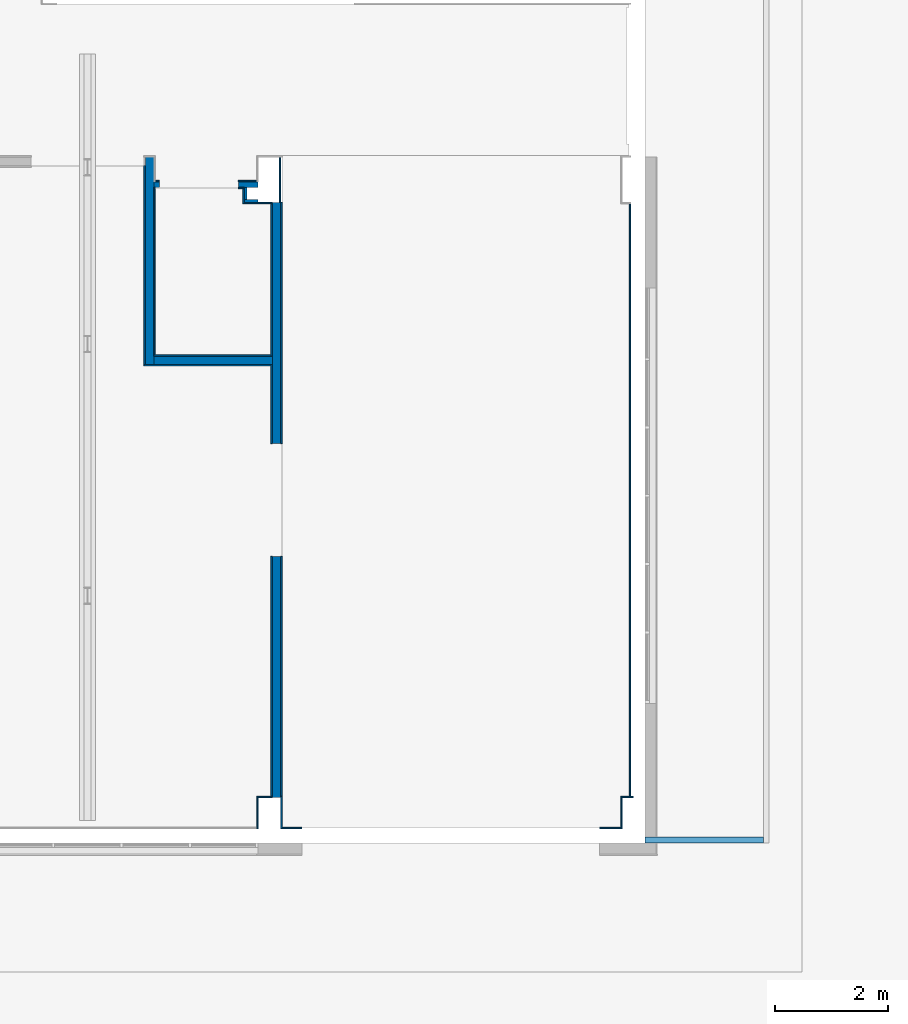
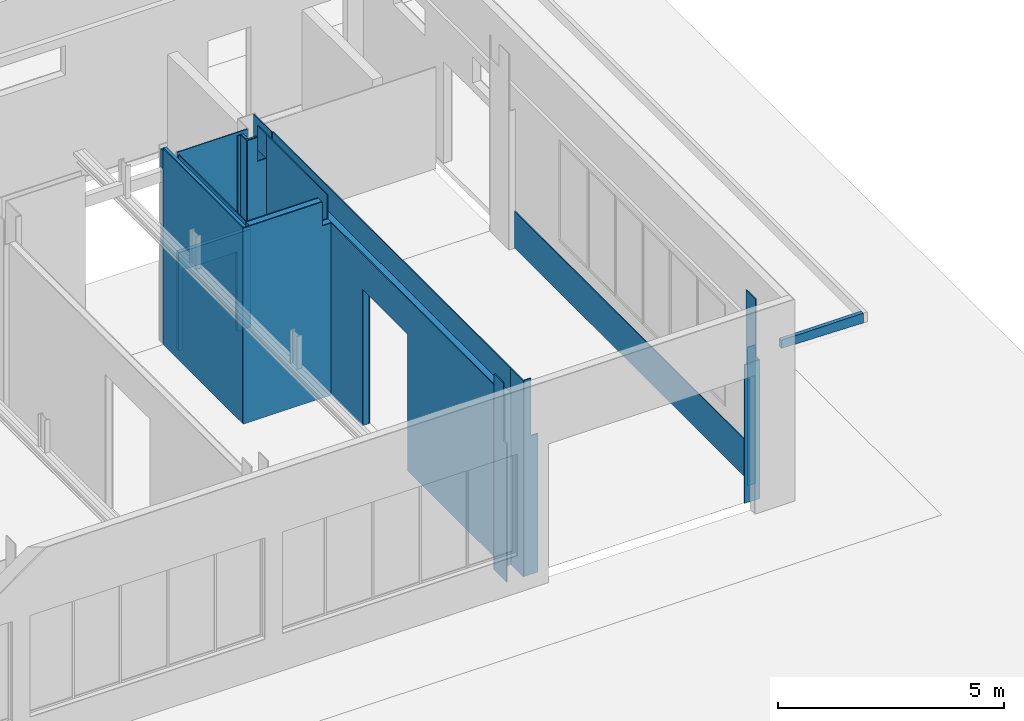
# One storey, part 16 of 27: 28 walls, 5 openings.
"""IFC2X3 building model written with IfcOpenShell, lengths in centimetres."""

from ifc_helpers import new_model, entity, si_unit, converted_unit, derived_unit, direction, frame, frame_2d, origin, origin_2d_with_axis, place, context, subcontext, project, spatial, polyline, rectangle, extrude, clip, bounded_halfspace, material, layer, layer_set, layer_usage, type_object, element, save


model = new_model("IFC2X3")

# Units and contexts
model_context = context("Model", 3, precision=0.001, world=origin(), true_north=direction((6.12303176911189e-17, 1.0)))
body_context = subcontext(model_context, "Body", "Model", "MODEL_VIEW")
ifc_project = project(units=[si_unit("LENGTHUNIT", "METRE", prefix="CENTI"), si_unit("AREAUNIT", "SQUARE_METRE"), si_unit("VOLUMEUNIT", "CUBIC_METRE"), converted_unit("PLANEANGLEUNIT", "DEGREE", entity("IfcRatioMeasure", 0.0174532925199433), si_unit("PLANEANGLEUNIT", "RADIAN"), dimensions=[0, 0, 0, 0, 0, 0, 0]), si_unit("MASSUNIT", "GRAM", prefix="KILO"), derived_unit("MASSDENSITYUNIT", [(si_unit("MASSUNIT", "GRAM", prefix="KILO"), 1), (si_unit("LENGTHUNIT", "METRE"), -3)]), derived_unit("MOMENTOFINERTIAUNIT", [(si_unit("LENGTHUNIT", "METRE"), 4)]), si_unit("TIMEUNIT", "SECOND"), si_unit("FREQUENCYUNIT", "HERTZ"), si_unit("THERMODYNAMICTEMPERATUREUNIT", "DEGREE_CELSIUS"), derived_unit("THERMALTRANSMITTANCEUNIT", [(si_unit("MASSUNIT", "GRAM", prefix="KILO"), 1), (si_unit("THERMODYNAMICTEMPERATUREUNIT", "KELVIN"), -1), (si_unit("TIMEUNIT", "SECOND"), -3)]), derived_unit("VOLUMETRICFLOWRATEUNIT", [(si_unit("LENGTHUNIT", "METRE"), 3), (si_unit("TIMEUNIT", "SECOND"), -1)]), si_unit("ELECTRICCURRENTUNIT", "AMPERE"), si_unit("ELECTRICVOLTAGEUNIT", "VOLT"), si_unit("POWERUNIT", "WATT"), si_unit("FORCEUNIT", "NEWTON", prefix="KILO"), si_unit("ILLUMINANCEUNIT", "LUX"), si_unit("LUMINOUSFLUXUNIT", "LUMEN"), si_unit("LUMINOUSINTENSITYUNIT", "CANDELA"), derived_unit("USERDEFINED", [(si_unit("MASSUNIT", "GRAM", prefix="KILO"), -1), (si_unit("LENGTHUNIT", "METRE"), -2), (si_unit("TIMEUNIT", "SECOND"), 3), (si_unit("LUMINOUSFLUXUNIT", "LUMEN"), 1)]), derived_unit("LINEARVELOCITYUNIT", [(si_unit("LENGTHUNIT", "METRE"), 1), (si_unit("TIMEUNIT", "SECOND"), -1)]), si_unit("PRESSUREUNIT", "PASCAL"), derived_unit("USERDEFINED", [(si_unit("LENGTHUNIT", "METRE"), -2), (si_unit("MASSUNIT", "GRAM", prefix="KILO"), 1), (si_unit("TIMEUNIT", "SECOND"), -2)]), derived_unit("LINEARFORCEUNIT", [(si_unit("MASSUNIT", "GRAM", prefix="KILO"), 1), (si_unit("LENGTHUNIT", "METRE"), 1), (si_unit("TIMEUNIT", "SECOND"), -2), (si_unit("LENGTHUNIT", "METRE"), -1)]), derived_unit("PLANARFORCEUNIT", [(si_unit("MASSUNIT", "GRAM", prefix="KILO"), 1), (si_unit("LENGTHUNIT", "METRE"), 1), (si_unit("TIMEUNIT", "SECOND"), -2), (si_unit("LENGTHUNIT", "METRE"), -2)])], contexts=[model_context])

# Site, building, storey
site_placement = place(None, origin())
site = spatial("IfcSite", under=ifc_project, at=site_placement, Name="Default", CompositionType="ELEMENT")
building_placement = place(site_placement, origin())
building = spatial("IfcBuilding", under=site, at=building_placement, CompositionType="ELEMENT")
storey_placement = place(building_placement, origin())
storey = spatial("IfcBuildingStorey", under=building, at=storey_placement, Name="Poziom 0 A +/-0,00", CompositionType="ELEMENT", Elevation=3.38570427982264e-11)

# Wall, opening
ifc_material_1 = material(Name="Wełna skalna")
ifc_layer_1 = layer(ifc_material_1, 10.0)
ifc_layer_set_1 = layer_set([ifc_layer_1], Name="Ściana podstawowa:Ściana GK rdzeń gr. 10cm")
ifc_layer_usage_1 = layer_usage(ifc_layer_set_1, "AXIS2", "POSITIVE", -5.0)
wall_type_1 = type_object("IfcWallType", Name="Ściana podstawowa:Ściana GK rdzeń gr. 10cm", PredefinedType="STANDARD", material=ifc_layer_set_1)
wall_1_placement = place(storey_placement, frame((290.734890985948, 1421.62745217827, 0.0), z_axis=(0.0, 0.0, 1.0), x_axis=(-1.0, 0.0, 0.0)))
wall_1 = element("IfcWallStandardCase", 1, at=wall_1_placement, inside=storey, type_object=wall_type_1, material=ifc_layer_usage_1, Name="Ściana podstawowa:Ściana GK rdzeń gr. 10cm", ObjectType="Ściana podstawowa:Ściana GK rdzeń gr. 10cm", context=body_context, shape_type="SweptSolid", body=[
    extrude(rectangle(XDim=185.000010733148, YDim=9.99999999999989, at=frame_2d((92.500005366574, 0.0), x_axis=(-1.0, 0.0))), origin(), (0.0, 0.0, 1.0), 264.999999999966),
])
opening_1_placement = place(wall_1_placement, origin())
element("IfcOpeningElement", 2, at=opening_1_placement, cuts=wall_1, Name="Ściana podstawowa:Ściana GK rdzeń gr. 10cm", ObjectType="Opening", context=body_context, shape_type="SweptSolid", body=[
    extrude(rectangle(XDim=215.0, YDim=140.0, at=frame_2d((0.0, 0.0), x_axis=(0.0, 1.0))), frame((105.000010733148, -157.4, 107.5), z_axis=(0.0, 1.0, 0.0), x_axis=(1.0, 0.0, 0.0)), (0.0, 0.0, 1.0), 304.8),
])

# Walls
ifc_layer_2 = layer(ifc_material_1, 15.0)
ifc_layer_set_2 = layer_set([ifc_layer_2], Name="Ściana podstawowa:Ściana GK rdzeń gr. 15cm")
ifc_layer_usage_2 = layer_usage(ifc_layer_set_2, "AXIS2", "NEGATIVE", 7.5)
wall_type_2 = type_object("IfcWallType", Name="Ściana podstawowa:Ściana GK rdzeń gr. 15cm", PredefinedType="STANDARD", material=ifc_layer_set_2)
wall_2_placement = place(storey_placement, frame((98.2348802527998, 1470.12745208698, 0.0), z_axis=(0.0, 0.0, 1.0), x_axis=(0.0, -1.0, 0.0)))
element("IfcWallStandardCase", 3, at=wall_2_placement, inside=storey, type_object=wall_type_2, material=ifc_layer_usage_2, Name="Ściana podstawowa:Ściana GK rdzeń gr. 15cm", ObjectType="Ściana podstawowa:Ściana GK rdzeń gr. 15cm", context=body_context, shape_type="SweptSolid", body=[
    extrude(rectangle(XDim=367.499999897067, YDim=15.0, at=frame_2d((183.749999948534, 0.0), x_axis=(-1.0, 0.0))), origin(), (0.0, 0.0, 1.0), 519.999999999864),
])
ifc_layer_usage_3 = layer_usage(ifc_layer_set_2, "AXIS2", "POSITIVE", -7.5)
wall_3_placement = place(storey_placement, frame((105.734880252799, 1110.12745218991, 0.0)))
element("IfcWallStandardCase", 4, at=wall_3_placement, inside=storey, type_object=wall_type_2, material=ifc_layer_usage_3, Name="Ściana podstawowa:Ściana GK rdzeń gr. 15cm", ObjectType="Ściana podstawowa:Ściana GK rdzeń gr. 15cm", context=body_context, shape_type="Clipping", body=[
    clip(clip(extrude(rectangle(XDim=210.00000005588, YDim=15.0000000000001, at=frame_2d((105.00000002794, 0.0), x_axis=(-1.0, 0.0))), origin(), (0.0, 0.0, 1.0), 529.999999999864), bounded_halfspace(frame((185.000010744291, -7.50000000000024, 465.0), z_axis=(-1.0, 0.0, 0.0), x_axis=(0.0, 1.0, 0.0)), True, frame((185.000010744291, -7.50000000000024, 465.0), z_axis=(-1.0, 0.0, 0.0), x_axis=(0.0, 1.0, 0.0)), polyline([(0.0, 0.0), (0.0, -65.0), (15.0, -65.0), (15.0, 0.0), (0.0, 0.0)]))), bounded_halfspace(frame((185.000010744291, 7.49999999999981, 465.0), z_axis=(0.0, 0.0, -1.0), x_axis=(0.0, 1.0, 0.0)), True, frame((185.000010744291, 7.49999999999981, 465.0), z_axis=(0.0, 0.0, -1.0), x_axis=(0.0, 1.0, 0.0)), polyline([(0.0, 0.0), (0.0, 24.9999893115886), (-15.0, 24.9999893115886), (-15.0, 0.0), (0.0, 0.0)]))),
])

# Wall, opening
ifc_layer_usage_4 = layer_usage(ifc_layer_set_2, "AXIS2", "POSITIVE", -7.5)
wall_4_placement = place(storey_placement, frame((323.234880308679, 1390.12745208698, 0.0), z_axis=(0.0, 0.0, 1.0), x_axis=(0.0, -1.0, 0.0)))
wall_4 = element("IfcWallStandardCase", 5, at=wall_4_placement, inside=storey, type_object=wall_type_2, material=ifc_layer_usage_4, Name="Ściana podstawowa:Ściana GK rdzeń gr. 15cm", ObjectType="Ściana podstawowa:Ściana GK rdzeń gr. 15cm", context=body_context, shape_type="SweptSolid", body=[
    extrude(rectangle(XDim=1054.99979448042, YDim=15.0000000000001, at=frame_2d((527.499897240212, 0.0), x_axis=(-1.0, 0.0))), origin(), (0.0, 0.0, 1.0), 464.999999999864),
])
opening_2_placement = place(wall_4_placement, origin())
element("IfcOpeningElement", 6, at=opening_2_placement, cuts=wall_4, Name="Ściana podstawowa:Ściana GK rdzeń gr. 15cm", ObjectType="Opening", context=body_context, shape_type="SweptSolid", body=[
    extrude(rectangle(XDim=370.0, YDim=200.0, at=frame_2d((0.0, 0.0), x_axis=(0.0, 1.0))), frame((527.499897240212, -159.9, 185.0), z_axis=(0.0, 1.0, 0.0), x_axis=(1.0, 0.0, 0.0)), (0.0, 0.0, 1.0), 304.8),
])

# Walls
ifc_layer_3 = layer(ifc_material_1, 5.0)
ifc_layer_set_3 = layer_set([ifc_layer_3], Name="Ściana podstawowa:Ściana GK rdzeń gr. 5cm")
ifc_layer_usage_5 = layer_usage(ifc_layer_set_3, "AXIS2", "POSITIVE", -2.5)
wall_type_3 = type_object("IfcWallType", Name="Ściana podstawowa:Ściana GK rdzeń gr. 5cm", PredefinedType="STANDARD", material=ifc_layer_set_3)
wall_5_placement = place(storey_placement, frame((268.234880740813, 1416.62745218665, 0.0), z_axis=(0.0, 0.0, 1.0), x_axis=(0.0, -1.0, 0.0)))
element("IfcWallStandardCase", 7, at=wall_5_placement, inside=storey, type_object=wall_type_3, material=ifc_layer_usage_5, Name="Ściana podstawowa:Ściana GK rdzeń gr. 5cm", ObjectType="Ściana podstawowa:Ściana GK rdzeń gr. 5cm", context=body_context, shape_type="SweptSolid", body=[
    extrude(rectangle(XDim=26.5000000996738, YDim=4.99999999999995, at=frame_2d((13.2500000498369, 0.0), x_axis=(-1.0, 0.0))), origin(), (0.0, 0.0, 1.0), 529.999999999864),
])
ifc_layer_usage_6 = layer_usage(ifc_layer_set_3, "AXIS2", "POSITIVE", -2.5)
wall_6_placement = place(storey_placement, frame((265.734880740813, 1392.62745208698, 0.0)))
element("IfcWallStandardCase", 8, at=wall_6_placement, inside=storey, type_object=wall_type_3, material=ifc_layer_usage_6, Name="Ściana podstawowa:Ściana GK rdzeń gr. 5cm", ObjectType="Ściana podstawowa:Ściana GK rdzeń gr. 5cm", context=body_context, shape_type="SweptSolid", body=[
    extrude(rectangle(XDim=25.0000102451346, YDim=5.00000000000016, at=frame_2d((12.5000051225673, 0.0), x_axis=(-1.0, 0.0))), origin(), (0.0, 0.0, 1.0), 529.999999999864),
])
ifc_material_2 = material(Name="_Beton C30/37")
ifc_layer_4 = layer(ifc_material_2, 10.0)
ifc_layer_set_4 = layer_set([ifc_layer_4], Name="Ściana podstawowa:Ściana daszku gr. 10cm")
ifc_layer_usage_7 = layer_usage(ifc_layer_set_4, "AXIS2", "NEGATIVE", 5.0)
wall_type_4 = type_object("IfcWallType", Name="Ściana podstawowa:Ściana daszku gr. 10cm", PredefinedType="STANDARD", material=ifc_layer_set_4)
wall_7_placement = place(storey_placement, frame((1185.73489460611, 260.127657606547, 402.190909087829), z_axis=(0.0, 0.0, 1.0), x_axis=(-1.0, 0.0, 0.0)))
element("IfcWallStandardCase", 9, at=wall_7_placement, inside=storey, type_object=wall_type_4, material=ifc_layer_usage_7, Name="Ściana podstawowa:Ściana daszku gr. 10cm", ObjectType="Ściana podstawowa:Ściana daszku gr. 10cm", context=body_context, shape_type="Clipping", body=[
    clip(extrude(rectangle(XDim=210.000003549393, YDim=10.0, at=frame_2d((105.000001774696, 1.11022302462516e-14), x_axis=(-1.0, 0.0))), origin(), (0.0, 0.0, 1.0), 26.3090909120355), bounded_halfspace(frame((210.000003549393, -5.0, 4.00909091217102), z_axis=(-0.0190874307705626, 0.0, 0.999817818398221), x_axis=(0.0, 1.0, 0.0)), True, frame((210.000003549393, -5.0, 4.00909091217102), z_axis=(-0.0190874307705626, 0.0, 0.999817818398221), x_axis=(0.0, 1.0, 0.0)), polyline([(0.0, 0.0), (10.0, 0.0), (10.0, 210.038268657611), (0.0, 210.038268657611), (0.0, 0.0)]))),
])
ifc_material_3 = material(Name="Tynk gipsowy")
ifc_layer_5 = layer(ifc_material_3, 2.5)
ifc_layer_set_5 = layer_set([ifc_layer_5], Name="Ściana podstawowa:Ściana GK wykonczenie gr. 2,5cm")
ifc_layer_usage_8 = layer_usage(ifc_layer_set_5, "AXIS2", "POSITIVE", -1.25)
wall_type_5 = type_object("IfcWallType", Name="Ściana podstawowa:Ściana GK wykonczenie gr. 2,5cm", PredefinedType="STANDARD", material=ifc_layer_set_5)
wall_8_placement = place(storey_placement, frame((89.4848802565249, 1455.12745208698, 0.0), z_axis=(0.0, 0.0, 1.0), x_axis=(0.0, -1.0, 0.0)))
element("IfcWallStandardCase", 10, at=wall_8_placement, inside=storey, type_object=wall_type_5, material=ifc_layer_usage_8, Name="Ściana podstawowa:Ściana GK wykonczenie gr. 2,5cm", ObjectType="Ściana podstawowa:Ściana GK wykonczenie gr. 2,5cm", context=body_context, shape_type="SweptSolid", body=[
    extrude(rectangle(XDim=354.999999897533, YDim=2.5, at=frame_2d((177.499999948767, 0.0), x_axis=(-1.0, 0.0))), origin(), (0.0, 0.0, 1.0), 529.999999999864),
])
ifc_layer_usage_9 = layer_usage(ifc_layer_set_5, "AXIS2", "POSITIVE", -1.25)
wall_9_placement = place(storey_placement, frame((88.2348802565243, 1101.37745218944, 0.0)))
element("IfcWallStandardCase", 11, at=wall_9_placement, inside=storey, type_object=wall_type_5, material=ifc_layer_usage_9, Name="Ściana podstawowa:Ściana GK wykonczenie gr. 2,5cm", ObjectType="Ściana podstawowa:Ściana GK wykonczenie gr. 2,5cm", context=body_context, shape_type="Clipping", body=[
    clip(clip(extrude(rectangle(XDim=225.000000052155, YDim=2.49999999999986, at=frame_2d((112.500000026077, 0.0), x_axis=(-1.0, 0.0))), origin(), (0.0, 0.0, 1.0), 529.999999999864), bounded_halfspace(frame((202.500010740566, -1.25000000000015, 465.0), z_axis=(-1.0, 0.0, 0.0), x_axis=(0.0, 1.0, 0.0)), True, frame((202.500010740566, -1.25000000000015, 465.0), z_axis=(-1.0, 0.0, 0.0), x_axis=(0.0, 1.0, 0.0)), polyline([(0.0, 0.0), (0.0, -65.0), (2.50000000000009, -65.0), (2.50000000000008, 0.0), (0.0, 0.0)]))), bounded_halfspace(frame((202.500010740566, 1.24999999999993, 465.0), z_axis=(0.0, 0.0, -1.0), x_axis=(0.0, 1.0, 0.0)), True, frame((202.500010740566, 1.24999999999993, 465.0), z_axis=(0.0, 0.0, -1.0), x_axis=(0.0, 1.0, 0.0)), polyline([(0.0, 0.0), (0.0, 22.4999893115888), (-2.50000000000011, 22.4999893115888), (-2.50000000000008, 0.0), (0.0, 0.0)]))),
])
ifc_layer_usage_10 = layer_usage(ifc_layer_set_5, "AXIS2", "POSITIVE", -1.25)
wall_10_placement = place(storey_placement, frame((313.234880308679, 1118.87745218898, 0.0), z_axis=(0.0, 0.0, 1.0), x_axis=(-1.0, 0.0, 0.0)))
element("IfcWallStandardCase", 12, at=wall_10_placement, inside=storey, type_object=wall_type_5, material=ifc_layer_usage_10, Name="Ściana podstawowa:Ściana GK wykonczenie gr. 2,5cm", ObjectType="Ściana podstawowa:Ściana GK wykonczenie gr. 2,5cm", context=body_context, shape_type="Clipping", body=[
    clip(clip(extrude(rectangle(XDim=207.50000005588, YDim=2.49999999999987, at=frame_2d((103.75000002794, 3.99680288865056e-15), x_axis=(-1.0, 0.0))), origin(), (0.0, 0.0, 1.0), 529.999999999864), bounded_halfspace(frame((22.4999893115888, 1.25000000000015, 465.0), z_axis=(1.0, 0.0, 0.0), x_axis=(0.0, -1.0, 0.0)), True, frame((22.4999893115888, 1.25000000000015, 465.0), z_axis=(1.0, 0.0, 0.0), x_axis=(0.0, -1.0, 0.0)), polyline([(0.0, 0.0), (0.0, -65.0), (2.50000000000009, -65.0), (2.50000000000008, 0.0), (0.0, 0.0)]))), bounded_halfspace(frame((22.4999893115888, -1.24999999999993, 465.0), z_axis=(0.0, 0.0, -1.0), x_axis=(0.0, -1.0, 0.0)), True, frame((22.4999893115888, -1.24999999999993, 465.0), z_axis=(0.0, 0.0, -1.0), x_axis=(0.0, -1.0, 0.0)), polyline([(0.0, 0.0), (0.0, 22.4999893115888), (-2.4999999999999, 22.4999893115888), (-2.50000000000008, 0.0), (0.0, 0.0)]))),
])
ifc_layer_usage_11 = layer_usage(ifc_layer_set_5, "AXIS2", "POSITIVE", -1.25)
wall_11_placement = place(storey_placement, frame((106.98487890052, 1120.12745218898, 0.0), z_axis=(0.0, 0.0, 1.0), x_axis=(0.0, 1.0, 0.0)))
element("IfcWallStandardCase", 13, at=wall_11_placement, inside=storey, type_object=wall_type_5, material=ifc_layer_usage_11, Name="Ściana podstawowa:Ściana GK wykonczenie gr. 2,5cm", ObjectType="Ściana podstawowa:Ściana GK wykonczenie gr. 2,5cm", context=body_context, shape_type="SweptSolid", body=[
    extrude(rectangle(XDim=296.49999998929, YDim=2.5, at=frame_2d((148.249999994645, 0.0), x_axis=(-1.0, 0.0))), origin(), (0.0, 0.0, 1.0), 529.999999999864),
])

# Wall, opening
ifc_layer_usage_12 = layer_usage(ifc_layer_set_5, "AXIS2", "POSITIVE", -1.25)
wall_12_placement = place(storey_placement, frame((108.23487890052, 1427.87745217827, 0.0)))
wall_12 = element("IfcWallStandardCase", 14, at=wall_12_placement, inside=storey, type_object=wall_type_5, material=ifc_layer_usage_12, Name="Ściana podstawowa:Ściana GK wykonczenie gr. 2,5cm", ObjectType="Ściana podstawowa:Ściana GK wykonczenie gr. 2,5cm", context=body_context, shape_type="SweptSolid", body=[
    extrude(rectangle(XDim=180.000012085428, YDim=2.49999999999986, at=frame_2d((90.0000060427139, 0.0), x_axis=(-1.0, 0.0))), origin(), (0.0, 0.0, 1.0), 529.999999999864),
])
opening_3_placement = place(wall_12_placement, origin())
element("IfcOpeningElement", 15, at=opening_3_placement, cuts=wall_12, Name="Ściana podstawowa:Ściana GK wykonczenie gr. 2,5cm", ObjectType="Opening", context=body_context, shape_type="SweptSolid", body=[
    extrude(rectangle(XDim=215.0, YDim=140.0, at=frame_2d((0.0, 2.8421709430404e-14), x_axis=(1.0, 0.0))), frame((77.5000013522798, -153.65, 107.5), z_axis=(0.0, 1.0, 0.0), x_axis=(0.0, 0.0, -1.0)), (0.0, 0.0, 1.0), 304.8),
])

# Walls
ifc_layer_usage_13 = layer_usage(ifc_layer_set_5, "AXIS2", "NEGATIVE", 1.25)
wall_13_placement = place(storey_placement, frame((264.484880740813, 1414.12745218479, 0.0), z_axis=(0.0, 0.0, 1.0), x_axis=(0.0, -1.0, 0.0)))
element("IfcWallStandardCase", 16, at=wall_13_placement, inside=storey, type_object=wall_type_5, material=ifc_layer_usage_13, Name="Ściana podstawowa:Ściana GK wykonczenie gr. 2,5cm", ObjectType="Ściana podstawowa:Ściana GK wykonczenie gr. 2,5cm", context=body_context, shape_type="SweptSolid", body=[
    extrude(rectangle(XDim=26.5000000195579, YDim=2.49999999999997, at=frame_2d((13.250000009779, 0.0), x_axis=(-1.0, 0.0))), origin(), (0.0, 0.0, 1.0), 529.999999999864),
])
ifc_layer_usage_14 = layer_usage(ifc_layer_set_5, "AXIS2", "POSITIVE", -1.25)
wall_14_placement = place(storey_placement, frame((265.734880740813, 1388.87745216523, 0.0)))
element("IfcWallStandardCase", 17, at=wall_14_placement, inside=storey, type_object=wall_type_5, material=ifc_layer_usage_14, Name="Ściana podstawowa:Ściana GK wykonczenie gr. 2,5cm", ObjectType="Ściana podstawowa:Ściana GK wykonczenie gr. 2,5cm", context=body_context, shape_type="Clipping", body=[
    clip(clip(extrude(rectangle(XDim=49.9999995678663, YDim=2.49999999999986, at=frame_2d((24.9999997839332, 0.0), x_axis=(-1.0, 0.0))), origin(), (0.0, 0.0, 1.0), 529.999999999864), bounded_halfspace(frame((25.000010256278, -1.25000000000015, 465.0), z_axis=(-1.0, 0.0, 0.0), x_axis=(0.0, 1.0, 0.0)), True, frame((25.000010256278, -1.25000000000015, 465.0), z_axis=(-1.0, 0.0, 0.0), x_axis=(0.0, 1.0, 0.0)), polyline([(0.0, 0.0), (0.0, -65.0), (2.50000000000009, -65.0), (2.50000000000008, 0.0), (0.0, 0.0)]))), bounded_halfspace(frame((25.000010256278, 1.24999999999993, 465.0), z_axis=(0.0, 0.0, -1.0), x_axis=(0.0, 1.0, 0.0)), True, frame((25.000010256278, 1.24999999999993, 465.0), z_axis=(0.0, 0.0, -1.0), x_axis=(0.0, 1.0, 0.0)), polyline([(0.0, 0.0), (0.0, 24.9999893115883), (-2.50000000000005, 24.9999893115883), (-2.50000000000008, 0.0), (0.0, 0.0)]))),
])
ifc_layer_usage_15 = layer_usage(ifc_layer_set_5, "AXIS2", "NEGATIVE", 1.25)
wall_15_placement = place(storey_placement, frame((255.7348802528, 1415.37745217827, 0.0)))
element("IfcWallStandardCase", 18, at=wall_15_placement, inside=storey, type_object=wall_type_5, material=ifc_layer_usage_15, Name="Ściana podstawowa:Ściana GK wykonczenie gr. 2,5cm", ObjectType="Ściana podstawowa:Ściana GK wykonczenie gr. 2,5cm", context=body_context, shape_type="SweptSolid", body=[
    extrude(rectangle(XDim=10.0000004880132, YDim=2.49999999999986, at=frame_2d((5.00000024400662, 0.0), x_axis=(-1.0, 0.0))), origin(), (0.0, 0.0, 1.0), 529.999999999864),
])
ifc_layer_usage_16 = layer_usage(ifc_layer_set_5, "AXIS2", "NEGATIVE", 1.25)
wall_16_placement = place(storey_placement, frame((314.484880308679, 1387.62745216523, 0.0), z_axis=(0.0, 0.0, 1.0), x_axis=(0.0, 1.0, 0.0)))
element("IfcWallStandardCase", 19, at=wall_16_placement, inside=storey, type_object=wall_type_5, material=ifc_layer_usage_16, Name="Ściana podstawowa:Ściana GK wykonczenie gr. 2,5cm", ObjectType="Ściana podstawowa:Ściana GK wykonczenie gr. 2,5cm", context=body_context, shape_type="Clipping", body=[
    clip(clip(extrude(rectangle(XDim=39.0000000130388, YDim=2.49999999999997, at=frame_2d((19.5000000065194, 0.0), x_axis=(-1.0, 0.0))), origin(), (0.0, 0.0, 1.0), 529.999999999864), bounded_halfspace(frame((2.49999992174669, -1.25000000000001, 465.0), z_axis=(0.0, 0.0, 1.0), x_axis=(0.0, 1.0, 0.0)), True, frame((2.49999992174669, -1.25000000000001, 465.0), z_axis=(0.0, 0.0, 1.0), x_axis=(0.0, 1.0, 0.0)), polyline([(0.0, 0.0), (0.0, -36.5000000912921), (2.49999999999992, -36.5000000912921), (2.49999999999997, 0.0), (0.0, 0.0)]))), bounded_halfspace(frame((2.49999992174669, 1.24999999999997, 465.0), z_axis=(-1.0, 0.0, 0.0), x_axis=(0.0, 0.0, -1.0)), True, frame((2.49999992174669, 1.24999999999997, 465.0), z_axis=(-1.0, 0.0, 0.0), x_axis=(0.0, 0.0, -1.0)), polyline([(0.0, 0.0), (465.0, 0.0), (465.0, 2.49999999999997), (0.0, 2.49999999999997), (0.0, 0.0)]))),
])
ifc_layer_usage_17 = layer_usage(ifc_layer_set_5, "AXIS2", "NEGATIVE", 1.25)
wall_17_placement = place(storey_placement, frame((314.48488030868, 1387.62745216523, 0.0), z_axis=(0.0, 0.0, 1.0), x_axis=(0.0, -1.0, 0.0)))
element("IfcWallStandardCase", 20, at=wall_17_placement, inside=storey, type_object=wall_type_5, material=ifc_layer_usage_17, Name="Ściana podstawowa:Ściana GK wykonczenie gr. 2,5cm", ObjectType="Ściana podstawowa:Ściana GK wykonczenie gr. 2,5cm", context=body_context, shape_type="SweptSolid", body=[
    extrude(rectangle(XDim=269.999999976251, YDim=2.49999999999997, at=frame_2d((134.999999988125, -3.66373598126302e-15), x_axis=(-1.0, 0.0))), origin(), (0.0, 0.0, 1.0), 529.999999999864),
])

# Wall, opening
ifc_layer_usage_18 = layer_usage(ifc_layer_set_5, "AXIS2", "NEGATIVE", 1.25)
wall_18_placement = place(storey_placement, frame((314.484880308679, 1102.62745218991, 0.0), z_axis=(0.0, 0.0, 1.0), x_axis=(0.0, -1.0, 0.0)))
wall_18 = element("IfcWallStandardCase", 21, at=wall_18_placement, inside=storey, type_object=wall_type_5, material=ifc_layer_usage_18, Name="Ściana podstawowa:Ściana GK wykonczenie gr. 2,5cm", ObjectType="Ściana podstawowa:Ściana GK wykonczenie gr. 2,5cm", context=body_context, shape_type="Clipping", body=[
    clip(extrude(rectangle(XDim=765.000000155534, YDim=2.49999999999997, at=frame_2d((382.500000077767, 0.0), x_axis=(-1.0, 0.0))), origin(), (0.0, 0.0, 1.0), 464.99999999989), bounded_halfspace(frame((0.0, -1.24999999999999, 465.0), z_axis=(0.0, 0.0, -1.0), x_axis=(-1.0, 0.0, 0.0)), True, frame((0.0, -1.24999999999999, 465.0), z_axis=(0.0, 0.0, -1.0), x_axis=(-1.0, 0.0, 0.0)), polyline([(0.0, 0.0), (0.0, 2.49999999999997), (-765.0, 2.49999999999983), (-765.0, 0.0), (0.0, 0.0)]))),
])
opening_4_placement = place(wall_18_placement, origin())
element("IfcOpeningElement", 22, at=opening_4_placement, cuts=wall_18, Name="Ściana podstawowa:Ściana GK wykonczenie gr. 2,5cm", ObjectType="Opening", context=body_context, shape_type="SweptSolid", body=[
    extrude(rectangle(XDim=370.0, YDim=200.0, at=frame_2d((0.0, 0.0), x_axis=(0.0, 1.0))), frame((239.999897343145, -151.15, 185.0), z_axis=(0.0, 1.0, 0.0), x_axis=(1.0, 0.0, 0.0)), (0.0, 0.0, 1.0), 304.8),
])

ifc_layer_usage_19 = layer_usage(ifc_layer_set_5, "AXIS2", "POSITIVE", -1.25)
wall_19_placement = place(storey_placement, frame((331.984890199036, 337.627452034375, 0.0), z_axis=(0.0, 0.0, 1.0), x_axis=(0.0, 1.0, 0.0)))
wall_19 = element("IfcWallStandardCase", 23, at=wall_19_placement, inside=storey, type_object=wall_type_5, material=ifc_layer_usage_19, Name="Ściana podstawowa:Ściana GK wykonczenie gr. 2,5cm", ObjectType="Ściana podstawowa:Ściana GK wykonczenie gr. 2,5cm", context=body_context, shape_type="SweptSolid", body=[
    extrude(rectangle(XDim=1052.5000000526, YDim=2.49999999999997, at=frame_2d((526.250000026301, 2.22044604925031e-16), x_axis=(-1.0, 0.0))), origin(), (0.0, 0.0, 1.0), 529.999999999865),
])
opening_5_placement = place(wall_19_placement, origin())
element("IfcOpeningElement", 24, at=opening_5_placement, cuts=wall_19, Name="Ściana podstawowa:Ściana GK wykonczenie gr. 2,5cm", ObjectType="Opening", context=body_context, shape_type="SweptSolid", body=[
    extrude(rectangle(XDim=370.0, YDim=200.0, at=origin_2d_with_axis()), frame((525.000102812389, -136.149990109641, 185.0), z_axis=(0.0, 1.0, 0.0), x_axis=(0.0, 0.0, -1.0)), (0.0, 0.0, 1.0), 304.8),
])

# Walls
ifc_layer_6 = layer(ifc_material_3, 2.5)
ifc_layer_set_6 = layer_set([ifc_layer_6], Name="Ściana podstawowa:Tynk wykończenie gr. 2,5cm")
ifc_layer_usage_20 = layer_usage(ifc_layer_set_6, "AXIS2", "NEGATIVE", 1.25)
wall_type_6 = type_object("IfcWallType", Name="Ściana podstawowa:Tynk wykończenie gr. 2,5cm", PredefinedType="STANDARD", material=ifc_layer_set_6)
wall_20_placement = place(storey_placement, frame((289.484890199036, 280.127499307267, 0.0), z_axis=(0.0, 0.0, 1.0), x_axis=(0.0, 1.0, 0.0)))
element("IfcWallStandardCase", 25, at=wall_20_placement, inside=storey, type_object=wall_type_6, material=ifc_layer_usage_20, Name="Ściana podstawowa:Tynk wykończenie gr. 2,5cm", ObjectType="Ściana podstawowa:Tynk wykończenie gr. 2,5cm", context=body_context, shape_type="Clipping", body=[
    clip(clip(extrude(rectangle(XDim=55.0001582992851, YDim=2.49999999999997, at=frame_2d((27.5000791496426, 0.0), x_axis=(-1.0, 0.0))), origin(), (0.0, 0.0, 1.0), 529.999999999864), bounded_halfspace(frame((14.99995276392, 1.25000000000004, 375.0), z_axis=(-1.0, 0.0, 0.0), x_axis=(0.0, 0.0, -1.0)), False, frame((14.99995276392, 1.25000000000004, 375.0), z_axis=(-1.0, 0.0, 0.0), x_axis=(0.0, 0.0, -1.0)), polyline([(0.0, 0.0), (0.0, 2.50000000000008), (-155.0, 2.50000000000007), (-155.0, 0.0), (0.0, 0.0)]))), bounded_halfspace(frame((14.99995276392, -1.25000000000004, 375.0), z_axis=(0.0, 0.0, 1.0), x_axis=(-1.0, 0.0, 0.0)), False, frame((14.99995276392, -1.25000000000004, 375.0), z_axis=(0.0, 0.0, 1.0), x_axis=(-1.0, 0.0, 0.0)), polyline([(0.0, 0.0), (0.0, -2.50000000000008), (14.99995276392, -2.49999999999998), (14.99995276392, 0.0), (0.0, 0.0)]))),
])
ifc_layer_usage_21 = layer_usage(ifc_layer_set_6, "AXIS2", "NEGATIVE", 1.25)
wall_21_placement = place(storey_placement, frame((288.234890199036, 336.377452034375, 0.0)))
element("IfcWallStandardCase", 26, at=wall_21_placement, inside=storey, type_object=wall_type_6, material=ifc_layer_usage_21, Name="Ściana podstawowa:Tynk wykończenie gr. 2,5cm", ObjectType="Ściana podstawowa:Tynk wykończenie gr. 2,5cm", context=body_context, shape_type="SweptSolid", body=[
    extrude(rectangle(XDim=27.4999901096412, YDim=2.49999999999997, at=frame_2d((13.7499950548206, -4.55191440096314e-15), x_axis=(-1.0, 0.0))), origin(), (0.0, 0.0, 1.0), 464.999999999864),
])
ifc_layer_usage_22 = layer_usage(ifc_layer_set_6, "AXIS2", "NEGATIVE", 1.25)
wall_22_placement = place(storey_placement, frame((331.984890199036, 337.627452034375, 0.0), z_axis=(0.0, 0.0, 1.0), x_axis=(0.0, -1.0, 0.0)))
element("IfcWallStandardCase", 27, at=wall_22_placement, inside=storey, type_object=wall_type_6, material=ifc_layer_usage_22, Name="Ściana podstawowa:Tynk wykończenie gr. 2,5cm", ObjectType="Ściana podstawowa:Tynk wykończenie gr. 2,5cm", context=body_context, shape_type="SweptSolid", body=[
    extrude(rectangle(XDim=57.4999527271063, YDim=2.49999999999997, at=frame_2d((28.7499763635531, 0.0), x_axis=(-1.0, 0.0))), origin(), (0.0, 0.0, 1.0), 529.999999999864),
])
ifc_layer_usage_23 = layer_usage(ifc_layer_set_6, "AXIS2", "POSITIVE", -1.25)
wall_23_placement = place(storey_placement, frame((895.735096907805, 281.377519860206, 0.0)))
element("IfcWallStandardCase", 28, at=wall_23_placement, inside=storey, type_object=wall_type_6, material=ifc_layer_usage_23, Name="Ściana podstawowa:Tynk wykończenie gr. 2,5cm", ObjectType="Ściana podstawowa:Tynk wykończenie gr. 2,5cm", context=body_context, shape_type="Clipping", body=[
    clip(extrude(rectangle(XDim=39.9997941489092, YDim=2.49999999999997, at=frame_2d((19.9998970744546, 0.0), x_axis=(-1.0, 0.0))), origin(), (0.0, 0.0, 1.0), 374.999999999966), bounded_halfspace(frame((0.0, -1.24999999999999, 375.0), z_axis=(0.0, 0.0, 1.0), x_axis=(0.0, -1.0, 0.0)), False, frame((0.0, -1.24999999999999, 375.0), z_axis=(0.0, 0.0, 1.0), x_axis=(0.0, -1.0, 0.0)), polyline([(0.0, 0.0), (0.0, 39.9997941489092), (-2.49999999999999, 39.9997941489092), (-2.49999999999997, 0.0), (0.0, 0.0)]))),
])
ifc_layer_usage_24 = layer_usage(ifc_layer_set_6, "AXIS2", "POSITIVE", -1.25)
wall_24_placement = place(storey_placement, frame((934.484891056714, 280.127519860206, 0.0), z_axis=(0.0, 0.0, 1.0), x_axis=(0.0, 1.0, 0.0)))
element("IfcWallStandardCase", 29, at=wall_24_placement, inside=storey, type_object=wall_type_6, material=ifc_layer_usage_24, Name="Ściana podstawowa:Tynk wykończenie gr. 2,5cm", ObjectType="Ściana podstawowa:Tynk wykończenie gr. 2,5cm", context=body_context, shape_type="Clipping", body=[
    clip(clip(extrude(rectangle(XDim=57.5, YDim=2.50000000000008, at=frame_2d((28.75, 0.0), x_axis=(-1.0, 0.0))), origin(), (0.0, 0.0, 1.0), 529.999999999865), bounded_halfspace(frame((14.9999322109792, 1.25000000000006, 375.0), z_axis=(-1.0, 0.0, 0.0), x_axis=(0.0, 0.0, -1.0)), False, frame((14.9999322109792, 1.25000000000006, 375.0), z_axis=(-1.0, 0.0, 0.0), x_axis=(0.0, 0.0, -1.0)), polyline([(0.0, 0.0), (0.0, 2.49999999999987), (-155.0, 2.49999999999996), (-155.0, 0.0), (0.0, 0.0)]))), bounded_halfspace(frame((14.9999322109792, -1.24999999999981, 375.0), z_axis=(0.0, 0.0, 1.0), x_axis=(-1.0, 0.0, 0.0)), False, frame((14.9999322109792, -1.24999999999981, 375.0), z_axis=(0.0, 0.0, 1.0), x_axis=(-1.0, 0.0, 0.0)), polyline([(0.0, 0.0), (0.0, -2.49999999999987), (14.9999322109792, -2.49999999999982), (14.9999322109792, 0.0), (0.0, 0.0)]))),
])
ifc_layer_usage_25 = layer_usage(ifc_layer_set_6, "AXIS2", "POSITIVE", -1.25)
wall_25_placement = place(storey_placement, frame((935.734891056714, 336.37765760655, 0.0)))
element("IfcWallStandardCase", 30, at=wall_25_placement, inside=storey, type_object=wall_type_6, material=ifc_layer_usage_25, Name="Ściana podstawowa:Tynk wykończenie gr. 2,5cm", ObjectType="Ściana podstawowa:Tynk wykończenie gr. 2,5cm", context=body_context, shape_type="Clipping", body=[
    clip(extrude(rectangle(XDim=20.0000000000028, YDim=2.49999999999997, at=frame_2d((10.0000000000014, 8.99280649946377e-15), x_axis=(-1.0, 0.0))), origin(), (0.0, 0.0, 1.0), 374.99999999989), bounded_halfspace(frame((0.0, -1.24999999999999, 375.0)), False, frame((0.0, -1.24999999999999, 375.0)), polyline([(0.0, 0.0), (20.0, 0.0), (20.0, 2.49999999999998), (0.0, 2.49999999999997), (0.0, 0.0)]))),
])
ifc_layer_usage_26 = layer_usage(ifc_layer_set_6, "AXIS2", "POSITIVE", -1.25)
wall_26_placement = place(storey_placement, frame((949.484897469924, 335.12765760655, 0.0), z_axis=(0.0, 0.0, 1.0), x_axis=(0.0, 1.0, 0.0)))
element("IfcWallStandardCase", 31, at=wall_26_placement, inside=storey, type_object=wall_type_6, material=ifc_layer_usage_26, Name="Ściana podstawowa:Tynk wykończenie gr. 2,5cm", ObjectType="Ściana podstawowa:Tynk wykończenie gr. 2,5cm", context=body_context, shape_type="SweptSolid", body=[
    extrude(rectangle(XDim=1054.99979448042, YDim=2.50000000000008, at=frame_2d((527.499897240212, 0.0), x_axis=(-1.0, 0.0))), origin(), (0.0, 0.0, 1.0), 100.0),
])
ifc_layer_usage_27 = layer_usage(ifc_layer_set_6, "AXIS2", "NEGATIVE", 1.25)
wall_27_placement = place(storey_placement, frame((329.484890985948, 1470.12745208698, 0.0), z_axis=(0.0, 0.0, 1.0), x_axis=(0.0, -1.0, 0.0)))
element("IfcWallStandardCase", 32, at=wall_27_placement, inside=storey, type_object=wall_type_6, material=ifc_layer_usage_27, Name="Ściana podstawowa:Tynk wykończenie gr. 2,5cm", ObjectType="Ściana podstawowa:Tynk wykończenie gr. 2,5cm", context=body_context, shape_type="SweptSolid", body=[
    extrude(rectangle(XDim=80.0, YDim=2.49999999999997, at=frame_2d((40.0, -1.66533453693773e-15), x_axis=(-1.0, 0.0))), origin(), (0.0, 0.0, 1.0), 529.999999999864),
])
ifc_layer_usage_28 = layer_usage(ifc_layer_set_6, "AXIS2", "NEGATIVE", 1.25)
wall_28_placement = place(storey_placement, frame((333.234890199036, 281.377452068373, 0.0)))
element("IfcWallStandardCase", 33, at=wall_28_placement, inside=storey, type_object=wall_type_6, material=ifc_layer_usage_28, Name="Ściana podstawowa:Tynk wykończenie gr. 2,5cm", ObjectType="Ściana podstawowa:Tynk wykończenie gr. 2,5cm", context=body_context, shape_type="Clipping", body=[
    clip(clip(extrude(rectangle(XDim=34.7645778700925, YDim=2.49999999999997, at=frame_2d((17.3822889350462, 0.0), x_axis=(-1.0, 0.0))), origin(), (0.0, 0.0, 1.0), 529.999999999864), bounded_halfspace(frame((17.5000008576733, -1.24999999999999, 375.0), z_axis=(1.0, 0.0, 0.0), x_axis=(0.0, 0.0, 1.0)), False, frame((17.5000008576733, -1.24999999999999, 375.0), z_axis=(1.0, 0.0, 0.0), x_axis=(0.0, 0.0, 1.0)), polyline([(0.0, 0.0), (0.0, -2.49999999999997), (155.0, -2.49999999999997), (155.0, 0.0), (0.0, 0.0)]))), bounded_halfspace(frame((17.5000008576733, 1.24999999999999, 375.0), z_axis=(0.0, 0.0, 1.0), x_axis=(0.0, -1.0, 0.0)), False, frame((17.5000008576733, 1.24999999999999, 375.0), z_axis=(0.0, 0.0, 1.0), x_axis=(0.0, -1.0, 0.0)), polyline([(0.0, 0.0), (2.49999999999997, 0.0), (2.49999999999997, 17.2645770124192), (0.0, 17.2645770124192), (0.0, 0.0)]))),
])

save(model, "model.ifc")
